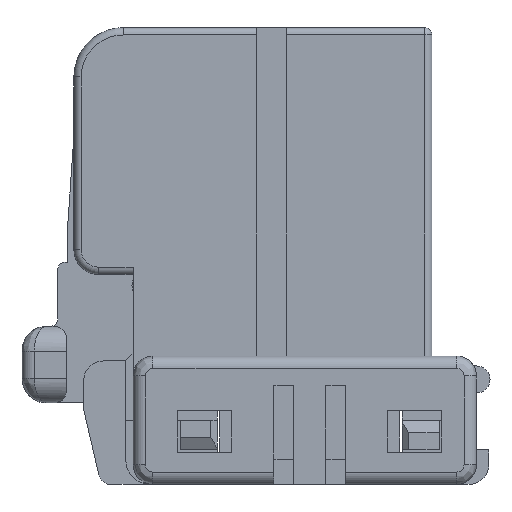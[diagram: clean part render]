
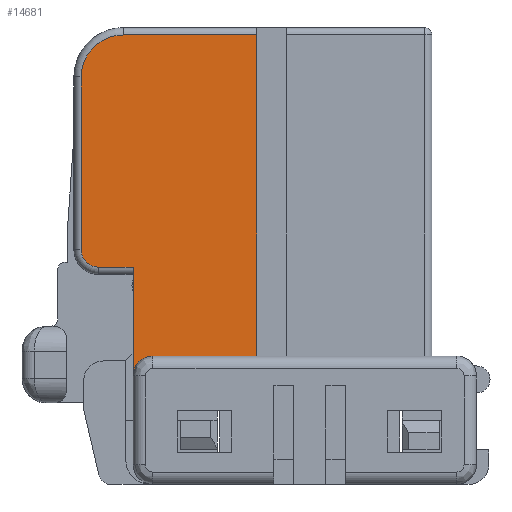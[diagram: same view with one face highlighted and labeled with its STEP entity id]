
A CAD part, left-side view. The second image highlights one B-rep face of the part: STEP entity #14681.
In plain terms, the highlighted planar face has unit normal (-1, 0, 0).
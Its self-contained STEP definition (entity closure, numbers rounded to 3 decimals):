
#2630=DIRECTION('',(0.,0.,-1.));
#2631=VECTOR('',#2630,4.4);
#2632=CARTESIAN_POINT('',(-8.25,4.85,-9.7));
#2633=LINE('',#2632,#2631);
#4686=CARTESIAN_POINT('',(-8.25,4.05,-14.1));
#4687=DIRECTION('',(1.,0.,0.));
#4688=DIRECTION('',(0.,1.,0.));
#4689=AXIS2_PLACEMENT_3D('',#4686,#4687,#4688);
#4691=DIRECTION('',(0.,1.,0.));
#4692=VECTOR('',#4691,4.2);
#4693=CARTESIAN_POINT('',(-8.25,-0.15,-13.3));
#4694=LINE('',#4693,#4692);
#4695=DIRECTION('',(0.,-1.,0.));
#4696=VECTOR('',#4695,1.4);
#4697=CARTESIAN_POINT('',(-8.25,6.25,-9.7));
#4698=LINE('',#4697,#4696);
#4699=CARTESIAN_POINT('',(-8.25,6.25,-9.));
#4700=DIRECTION('',(1.,0.,0.));
#4701=DIRECTION('',(0.,0.,-1.));
#4702=AXIS2_PLACEMENT_3D('',#4699,#4700,#4701);
#4704=DIRECTION('',(0.,0.,-1.));
#4705=VECTOR('',#4704,7.);
#4706=CARTESIAN_POINT('',(-8.25,6.95,-2.));
#4707=LINE('',#4706,#4705);
#4708=CARTESIAN_POINT('',(-8.25,5.25,-2.));
#4709=DIRECTION('',(1.,0.,0.));
#4710=DIRECTION('',(0.,1.,0.));
#4711=AXIS2_PLACEMENT_3D('',#4708,#4709,#4710);
#4713=DIRECTION('',(0.,-1.,0.));
#4714=VECTOR('',#4713,5.4);
#4715=CARTESIAN_POINT('',(-8.25,5.25,-0.3));
#4716=LINE('',#4715,#4714);
#4742=DIRECTION('',(0.,0.,-1.));
#4743=VECTOR('',#4742,13.);
#4744=CARTESIAN_POINT('',(-8.25,-0.15,-0.3));
#4745=LINE('',#4744,#4743);
#6174=CARTESIAN_POINT('',(-8.25,-0.15,-13.3));
#6176=VERTEX_POINT('',#6174);
#7644=CARTESIAN_POINT('',(-8.25,4.05,-13.3));
#7645=VERTEX_POINT('',#7644);
#7658=CARTESIAN_POINT('',(-8.25,6.95,-2.));
#7659=VERTEX_POINT('',#7658);
#7660=CARTESIAN_POINT('',(-8.25,4.85,-9.7));
#7662=VERTEX_POINT('',#7660);
#7668=CARTESIAN_POINT('',(-8.25,6.25,-9.7));
#7669=VERTEX_POINT('',#7668);
#7713=CARTESIAN_POINT('',(-8.25,-0.15,-0.3));
#7715=VERTEX_POINT('',#7713);
#7716=CARTESIAN_POINT('',(-8.25,5.25,-0.3));
#7717=VERTEX_POINT('',#7716);
#7718=CARTESIAN_POINT('',(-8.25,6.95,-9.));
#7719=VERTEX_POINT('',#7718);
#7758=CARTESIAN_POINT('',(-8.25,4.85,-14.1));
#7759=VERTEX_POINT('',#7758);
#14658=CARTESIAN_POINT('',(-8.25,7.25,0.));
#14659=DIRECTION('',(-1.,0.,0.));
#14660=DIRECTION('',(0.,-1.,0.));
#14661=AXIS2_PLACEMENT_3D('',#14658,#14659,#14660);
#14662=PLANE('',#14661);
#14664=ORIENTED_EDGE('',*,*,#14663,.T.);
#14665=ORIENTED_EDGE('',*,*,#14651,.F.);
#14666=ORIENTED_EDGE('',*,*,#11742,.F.);
#14668=ORIENTED_EDGE('',*,*,#14667,.F.);
#14670=ORIENTED_EDGE('',*,*,#14669,.T.);
#14672=ORIENTED_EDGE('',*,*,#14671,.F.);
#14674=ORIENTED_EDGE('',*,*,#14673,.T.);
#14676=ORIENTED_EDGE('',*,*,#14675,.T.);
#14678=ORIENTED_EDGE('',*,*,#14677,.T.);
#14679=EDGE_LOOP('',(#14664,#14665,#14666,#14668,#14670,#14672,#14674,#14676,
#14678));
#14680=FACE_OUTER_BOUND('',#14679,.F.);
#4690=CIRCLE('',#4689,0.8);
#4703=CIRCLE('',#4702,0.7);
#4712=CIRCLE('',#4711,1.7);
#11742=EDGE_CURVE('',#7662,#7759,#2633,.T.);
#14651=EDGE_CURVE('',#7759,#7645,#4690,.T.);
#14663=EDGE_CURVE('',#6176,#7645,#4694,.T.);
#14667=EDGE_CURVE('',#7669,#7662,#4698,.T.);
#14669=EDGE_CURVE('',#7669,#7719,#4703,.T.);
#14671=EDGE_CURVE('',#7659,#7719,#4707,.T.);
#14673=EDGE_CURVE('',#7659,#7717,#4712,.T.);
#14675=EDGE_CURVE('',#7717,#7715,#4716,.T.);
#14677=EDGE_CURVE('',#7715,#6176,#4745,.T.);
#14681=ADVANCED_FACE('',(#14680),#14662,.T.);
